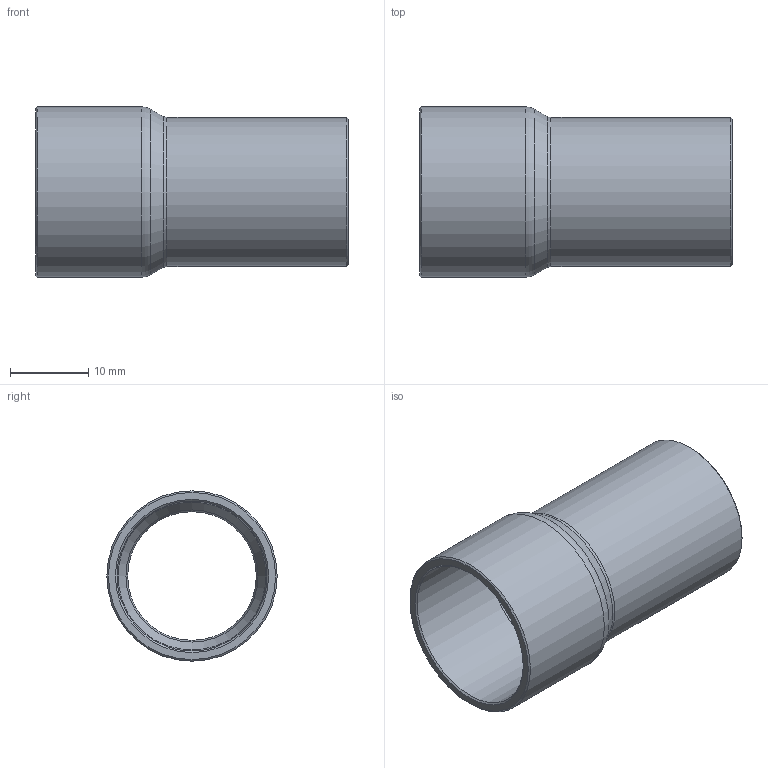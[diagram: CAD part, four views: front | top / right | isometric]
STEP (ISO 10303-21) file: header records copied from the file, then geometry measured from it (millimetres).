
FILE_DESCRIPTION((''),'2;1');
FILE_NAME('G:\SANHA-Ternat\Technik\Management\Bouwmaten + markeringen\z-maattekeningen 3D\29000s\29000s_gem\2924534_gem.stp','2020-03-27T09:45:08',('vdvijverd'),(''),'Autodesk Inventor 2009','Autodesk Inventor 2009','');
FILE_SCHEMA(('AUTOMOTIVE_DESIGN { 1 0 10303 214 1 1 1 1 }'));
Length unit declared in the file: millimetre
Products named in the file (1): 2924534_gem
Bounding box: 40 x 21.77 x 21.77 mm (x, y, z)
Volume: 3105.9 mm3; surface area: 4886.2 mm2
Topology: 1 solids, 1 shells, 16 faces, 30 edges, 16 vertices
Faces by surface type: cone 6, cylinder 4, plane 2, torus 2, bspline 2
Full cylindrical faces by diameter (mm): 16.45 x1, 19.05 x1, 19.17 x1, 21.77 x1
Entity records: 434 total; most frequent: CARTESIAN_POINT 137, DIRECTION 62, ORIENTED_EDGE 32, EDGE_LOOP 32, AXIS2_PLACEMENT_3D 31, VERTEX_POINT 16, CIRCLE 16, EDGE_CURVE 16
